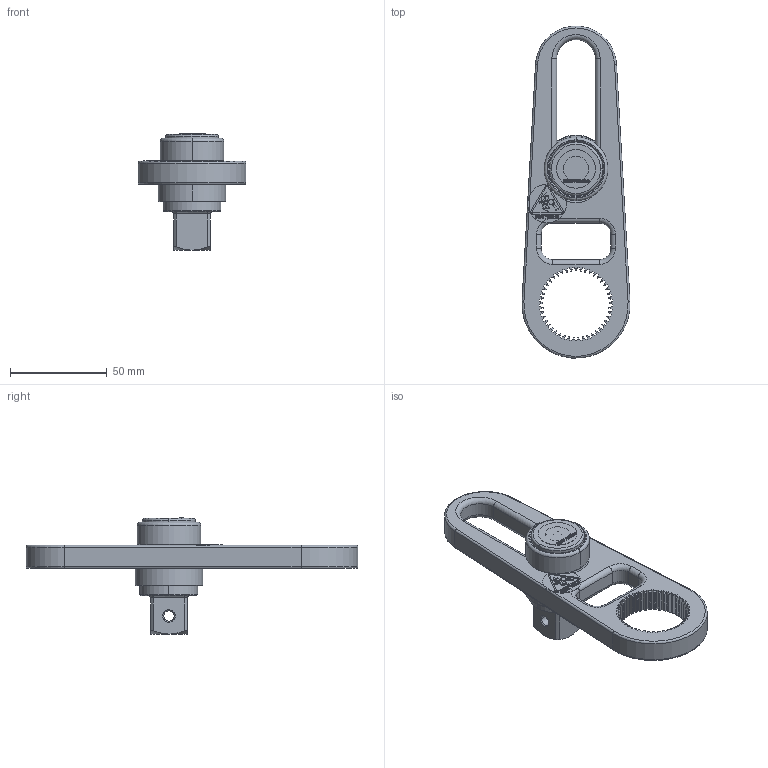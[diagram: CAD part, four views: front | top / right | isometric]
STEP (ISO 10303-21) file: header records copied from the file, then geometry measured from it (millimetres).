
FILE_DESCRIPTION((''),'2;1');
FILE_NAME('6158136305_ASM','2024-09-18T11:45:50',('SYSTEM'),(''),'CREO PARAMETRIC BY PTC INC, 2022414','CREO PARAMETRIC BY PTC INC, 2022414','');
FILE_SCHEMA(('AP242_MANAGED_MODEL_BASED_3D_ENGINEERING_MIM_LF { 1 0 10303 442 1 1 4 }'));
Length unit declared in the file: millimetre
Products named in the file (12): 4210448103; 6158763730; 6158136290_ASM; 4210447602; 4210447604; 4210447615; 4210447616; 0216124400; 6158716530; 6158716540; 6158136300_ASM; 6158136305_ASM
Assembly tree (11 placements, depth 4):
  6158136305_ASM
    6158136300_ASM
      6158136290_ASM
        4210448103
        6158763730
      4210447602
      4210447604
      4210447615
      4210447616
      0216124400
      6158716530
      6158716540
Bounding box: 55.91 x 171.9 x 60.2 mm (x, y, z)
Volume: 90413.8 mm3; surface area: 37489.2 mm2
Topology: 8 solids, 10 shells, 1372 faces, 3802 edges, 2503 vertices
Faces by surface type: plane 1052, cylinder 148, cone 138, torus 28, extrusion 6
Entity records: 56123 total; most frequent: CARTESIAN_POINT 8907, ORIENTED_EDGE 7592, DIRECTION 6870, EDGE_CURVE 3800, PRESENTATION_STYLE_ASSIGNMENT 3722, STYLED_ITEM 3700, CURVE_STYLE 3692, VECTOR 3136
